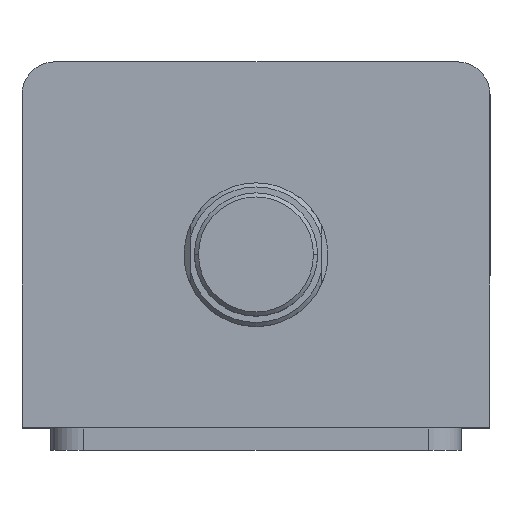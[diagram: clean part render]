
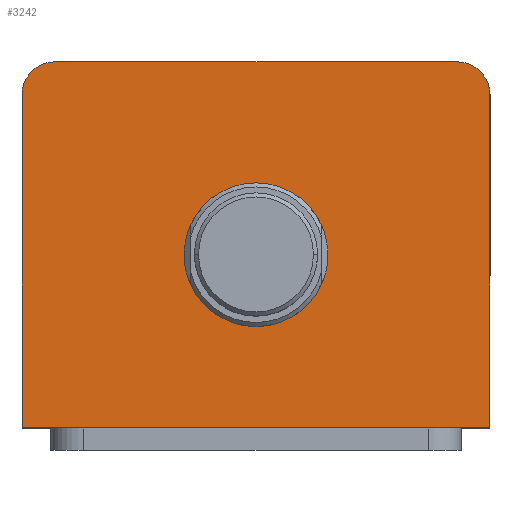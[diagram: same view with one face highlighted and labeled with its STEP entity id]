
A CAD part, top view. The second image highlights one B-rep face of the part: STEP entity #3242.
In plain terms, the highlighted planar face has unit normal (0, 0, 1).
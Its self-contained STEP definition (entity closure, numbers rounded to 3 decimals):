
#32 = CARTESIAN_POINT ( 'NONE',  ( -57., 44.5, 117. ) ) ;
#34 = DIRECTION ( 'NONE',  ( 0., -1., 0. ) ) ;
#86 = EDGE_CURVE ( 'NONE', #2525, #2486, #1336, .T. ) ;
#149 = CIRCLE ( 'NONE', #541, 17.5 ) ;
#171 = AXIS2_PLACEMENT_3D ( 'NONE', #711, #710, #709 ) ;
#242 = LINE ( 'NONE', #298, #280 ) ;
#280 = VECTOR ( 'NONE', #297, 1000. ) ;
#297 = DIRECTION ( 'NONE',  ( 0., 1., 0. ) ) ;
#298 = CARTESIAN_POINT ( 'NONE',  ( 57., 44.5, 117. ) ) ;
#367 = DIRECTION ( 'NONE',  ( 1., 0., 0. ) ) ;
#379 = CARTESIAN_POINT ( 'NONE',  ( -57., -44.5, 117. ) ) ;
#388 = DIRECTION ( 'NONE',  ( 1., 0., 0. ) ) ;
#389 = DIRECTION ( 'NONE',  ( 0., 0., 1. ) ) ;
#390 = CARTESIAN_POINT ( 'NONE',  ( 0., -2.5, 117. ) ) ;
#505 = DIRECTION ( 'NONE',  ( 1., 0., 0. ) ) ;
#506 = DIRECTION ( 'NONE',  ( 0., 0., 1. ) ) ;
#510 = CARTESIAN_POINT ( 'NONE',  ( 0., -2.5, 117. ) ) ;
#541 = AXIS2_PLACEMENT_3D ( 'NONE', #510, #506, #505 ) ;
#544 = EDGE_CURVE ( 'NONE', #2522, #2500, #2405, .T. ) ;
#553 = EDGE_CURVE ( 'NONE', #2503, #2525, #1068, .T. ) ;
#665 = DIRECTION ( 'NONE',  ( 1., 0., 0. ) ) ;
#666 = DIRECTION ( 'NONE',  ( 0., 0., 1. ) ) ;
#667 = CARTESIAN_POINT ( 'NONE',  ( -49., 36.5, 117. ) ) ;
#709 = DIRECTION ( 'NONE',  ( 1., 0., 0. ) ) ;
#710 = DIRECTION ( 'NONE',  ( 0., 0., 1. ) ) ;
#711 = CARTESIAN_POINT ( 'NONE',  ( 49., 36.5, 117. ) ) ;
#836 = VECTOR ( 'NONE', #367, 1000. ) ;
#837 = CIRCLE ( 'NONE', #1887, 17.5 ) ;
#852 = LINE ( 'NONE', #379, #836 ) ;
#878 = CARTESIAN_POINT ( 'NONE',  ( 0., 0., 117. ) ) ;
#885 = PLANE ( 'NONE',  #2754 ) ;
#887 = DIRECTION ( 'NONE',  ( 0., 0., 1. ) ) ;
#889 = DIRECTION ( 'NONE',  ( 1., 0., 0. ) ) ;
#1052 = EDGE_CURVE ( 'NONE', #2483, #2484, #149, .T. ) ;
#1068 = CIRCLE ( 'NONE', #2370, 8. ) ;
#1330 = VECTOR ( 'NONE', #34, 1000. ) ;
#1336 = LINE ( 'NONE', #32, #1330 ) ;
#1341 = ORIENTED_EDGE ( 'NONE', *, *, #553, .T. ) ;
#1347 = ORIENTED_EDGE ( 'NONE', *, *, #86, .T. ) ;
#1792 = ORIENTED_EDGE ( 'NONE', *, *, #1052, .F. ) ;
#1793 = ORIENTED_EDGE ( 'NONE', *, *, #3683, .T. ) ;
#1797 = ORIENTED_EDGE ( 'NONE', *, *, #1838, .F. ) ;
#1821 = ORIENTED_EDGE ( 'NONE', *, *, #1880, .T. ) ;
#1825 = ORIENTED_EDGE ( 'NONE', *, *, #544, .T. ) ;
#1836 = ORIENTED_EDGE ( 'NONE', *, *, #1844, .T. ) ;
#1838 = EDGE_CURVE ( 'NONE', #2484, #2483, #837, .T. ) ;
#1844 = EDGE_CURVE ( 'NONE', #2486, #2481, #852, .T. ) ;
#1880 = EDGE_CURVE ( 'NONE', #2481, #2522, #242, .T. ) ;
#1887 = AXIS2_PLACEMENT_3D ( 'NONE', #390, #389, #388 ) ;
#1923 = FACE_BOUND ( 'NONE', #2593, .T. ) ;
#1926 = FACE_OUTER_BOUND ( 'NONE', #2585, .T. ) ;
#2066 = LINE ( 'NONE', #3628, #2069 ) ;
#2069 = VECTOR ( 'NONE', #3626, 1000. ) ;
#2370 = AXIS2_PLACEMENT_3D ( 'NONE', #667, #666, #665 ) ;
#2405 = CIRCLE ( 'NONE', #171, 8. ) ;
#2481 = VERTEX_POINT ( 'NONE', #3024 ) ;
#2483 = VERTEX_POINT ( 'NONE', #3022 ) ;
#2484 = VERTEX_POINT ( 'NONE', #3021 ) ;
#2486 = VERTEX_POINT ( 'NONE', #3019 ) ;
#2500 = VERTEX_POINT ( 'NONE', #3005 ) ;
#2503 = VERTEX_POINT ( 'NONE', #3002 ) ;
#2522 = VERTEX_POINT ( 'NONE', #2981 ) ;
#2525 = VERTEX_POINT ( 'NONE', #2978 ) ;
#2585 = EDGE_LOOP ( 'NONE', ( #1793, #1341, #1347, #1836, #1821, #1825 ) ) ;
#2593 = EDGE_LOOP ( 'NONE', ( #1797, #1792 ) ) ;
#2754 = AXIS2_PLACEMENT_3D ( 'NONE', #878, #887, #889 ) ;
#2978 = CARTESIAN_POINT ( 'NONE',  ( -57., 36.5, 117. ) ) ;
#2981 = CARTESIAN_POINT ( 'NONE',  ( 57., 36.5, 117. ) ) ;
#3002 = CARTESIAN_POINT ( 'NONE',  ( -49., 44.5, 117. ) ) ;
#3005 = CARTESIAN_POINT ( 'NONE',  ( 49., 44.5, 117. ) ) ;
#3019 = CARTESIAN_POINT ( 'NONE',  ( -57., -44.5, 117. ) ) ;
#3021 = CARTESIAN_POINT ( 'NONE',  ( 17.5, -2.5, 117. ) ) ;
#3022 = CARTESIAN_POINT ( 'NONE',  ( -17.5, -2.5, 117. ) ) ;
#3024 = CARTESIAN_POINT ( 'NONE',  ( 57., -44.5, 117. ) ) ;
#3242 = ADVANCED_FACE ( 'NONE', ( #1923, #1926 ), #885, .T. ) ;
#3626 = DIRECTION ( 'NONE',  ( -1., 0., 0. ) ) ;
#3628 = CARTESIAN_POINT ( 'NONE',  ( -57., 44.5, 117. ) ) ;
#3683 = EDGE_CURVE ( 'NONE', #2500, #2503, #2066, .T. ) ;
